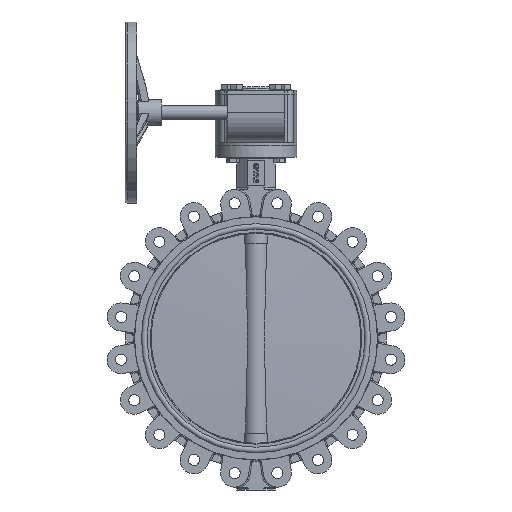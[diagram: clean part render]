
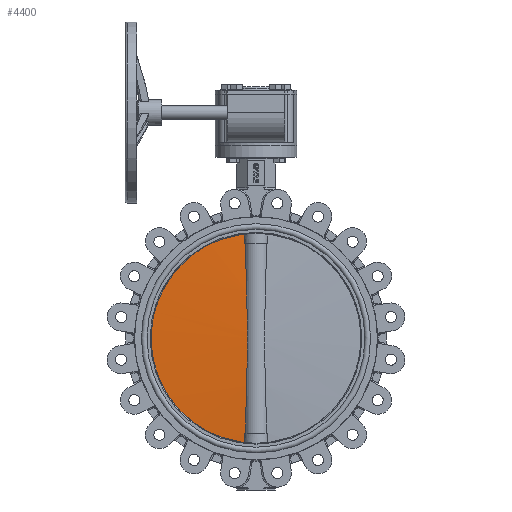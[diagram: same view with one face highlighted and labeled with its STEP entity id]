
A CAD part, left-side view. The second image highlights one B-rep face of the part: STEP entity #4400.
In plain terms, the highlighted spherical face has radius 3378.75 mm.
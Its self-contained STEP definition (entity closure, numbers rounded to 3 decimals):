
#4400=ADVANCED_FACE('',(#10831),#10833,.T.);
#10831=FACE_BOUND('',#10832,.T.);
#10832=EDGE_LOOP('',(#20281,#20282,#20283,#20284,#20285,#20286));
#10833=SPHERICAL_SURFACE('',#10834,3378.75);
#10834=AXIS2_PLACEMENT_3D('',#10835,#10836,#10837);
#10835=CARTESIAN_POINT('',(0.,-3360.75,0.));
#10836=DIRECTION('',(0.,-1.,0.));
#10837=DIRECTION('',(0.,0.,1.));
#20281=ORIENTED_EDGE('',*,*,#23440,.F.);
#20282=ORIENTED_EDGE('',*,*,#23452,.F.);
#20283=ORIENTED_EDGE('',*,*,#23453,.T.);
#20284=ORIENTED_EDGE('',*,*,#23454,.F.);
#20285=ORIENTED_EDGE('',*,*,#23423,.F.);
#20286=ORIENTED_EDGE('',*,*,#23451,.T.);
#23423=EDGE_CURVE('',#27494,#27495,#27496,.F.);
#23440=EDGE_CURVE('',#27527,#27512,#27529,.T.);
#23451=EDGE_CURVE('',#27494,#27512,#27544,.T.);
#23452=EDGE_CURVE('',#27545,#27527,#27546,.T.);
#23453=EDGE_CURVE('',#27545,#27547,#27548,.T.);
#23454=EDGE_CURVE('',#27495,#27547,#27549,.T.);
#27494=VERTEX_POINT('',#41797);
#27495=VERTEX_POINT('',#41798);
#27496=B_SPLINE_CURVE_WITH_KNOTS('',3,
(#41799,#41800,#41801,#41802,#41803,#41804,#41805),
.UNSPECIFIED.,.F.,.F.,
(4,1,1,1,4),
(0.,0.241,0.488,0.741,1.),
.UNSPECIFIED.);
#27512=VERTEX_POINT('',#41938);
#27527=VERTEX_POINT('',#42067);
#27529=B_SPLINE_CURVE_WITH_KNOTS('',3,
(#42072,#42073,#42074,#42075,#42076,#42077,#42078),
.UNSPECIFIED.,.F.,.F.,
(4,1,1,1,4),
(0.,0.241,0.488,0.741,1.),
.UNSPECIFIED.);
#27544=CIRCLE('',#42150,225.);
#27545=VERTEX_POINT('',#42154);
#27546=CIRCLE('',#42155,3372.642);
#27547=VERTEX_POINT('',#42159);
#27548=B_SPLINE_CURVE_WITH_KNOTS('',3,
(#42160,#42161,#42162,#42163,#42164,#42165,#42166,#42167,#42168,#42169,#42170,#42171,
#42172,#42173,#42174),
.UNSPECIFIED.,.F.,.F.,
(4,1,1,1,1,1,1,1,1,1,1,1,4),
(0.,0.115,0.223,0.325,0.406,0.488,
0.5,0.592,0.692,0.79,0.86,
0.931,1.),
.UNSPECIFIED.);
#27549=CIRCLE('',#42175,3372.642);
#41797=CARTESIAN_POINT('',(24.956,10.5,223.612));
#41798=CARTESIAN_POINT('',(24.366,11.804,203.063));
#41799=CARTESIAN_POINT('',(24.366,11.804,203.062));
#41800=CARTESIAN_POINT('',(24.414,11.705,204.712));
#41801=CARTESIAN_POINT('',(24.512,11.5,208.053));
#41802=CARTESIAN_POINT('',(24.659,11.183,213.127));
#41803=CARTESIAN_POINT('',(24.807,10.849,218.328));
#41804=CARTESIAN_POINT('',(24.906,10.618,221.836));
#41805=CARTESIAN_POINT('',(24.956,10.5,223.612));
#41938=CARTESIAN_POINT('',(24.956,10.5,-223.612));
#42067=CARTESIAN_POINT('',(24.366,11.804,-203.063));
#42072=CARTESIAN_POINT('',(24.366,11.804,-203.062));
#42073=CARTESIAN_POINT('',(24.414,11.705,-204.712));
#42074=CARTESIAN_POINT('',(24.512,11.5,-208.053));
#42075=CARTESIAN_POINT('',(24.659,11.183,-213.127));
#42076=CARTESIAN_POINT('',(24.807,10.849,-218.328));
#42077=CARTESIAN_POINT('',(24.906,10.618,-221.836));
#42078=CARTESIAN_POINT('',(24.956,10.5,-223.612));
#42150=AXIS2_PLACEMENT_3D('',#42151,#42152,#42153);
#42151=CARTESIAN_POINT('',(0.,10.5,0.));
#42152=DIRECTION('',(0.,1.,0.));
#42153=DIRECTION('',(0.111,0.,0.994));
#42154=CARTESIAN_POINT('',(23.059,11.814,-203.062));
#42155=AXIS2_PLACEMENT_3D('',#42156,#42157,#42158);
#42156=CARTESIAN_POINT('',(0.,-3360.75,-203.063));
#42157=DIRECTION('',(0.,0.,-1.));
#42158=DIRECTION('',(0.007,1.,0.));
#42159=CARTESIAN_POINT('',(23.059,11.814,203.063));
#42160=CARTESIAN_POINT('',(23.059,11.814,-203.062));
#42161=CARTESIAN_POINT('',(22.579,12.749,-187.581));
#42162=CARTESIAN_POINT('',(21.614,14.361,-157.463));
#42163=CARTESIAN_POINT('',(20.31,16.121,-113.54));
#42164=CARTESIAN_POINT('',(19.384,17.202,-74.039));
#42165=CARTESIAN_POINT('',(18.841,17.787,-38.106));
#42166=CARTESIAN_POINT('',(18.694,17.939,-14.335));
#42167=CARTESIAN_POINT('',(18.677,17.957,10.813));
#42168=CARTESIAN_POINT('',(18.826,17.804,38.505));
#42169=CARTESIAN_POINT('',(19.452,17.13,77.724));
#42170=CARTESIAN_POINT('',(20.343,16.07,114.101));
#42171=CARTESIAN_POINT('',(21.282,14.802,146.351));
#42172=CARTESIAN_POINT('',(22.172,13.441,174.824));
#42173=CARTESIAN_POINT('',(22.769,12.38,193.688));
#42174=CARTESIAN_POINT('',(23.059,11.814,203.062));
#42175=AXIS2_PLACEMENT_3D('',#42176,#42177,#42178);
#42176=CARTESIAN_POINT('',(0.,-3360.75,203.063));
#42177=DIRECTION('',(0.,0.,1.));
#42178=DIRECTION('',(0.007,1.,0.));
